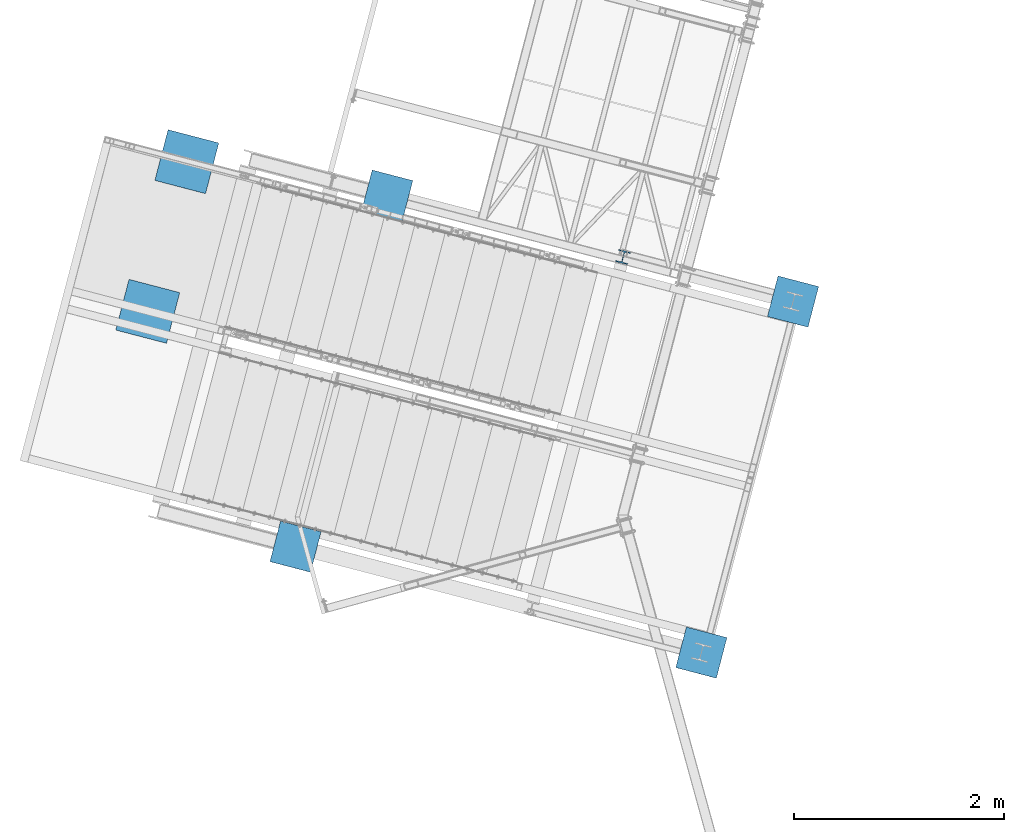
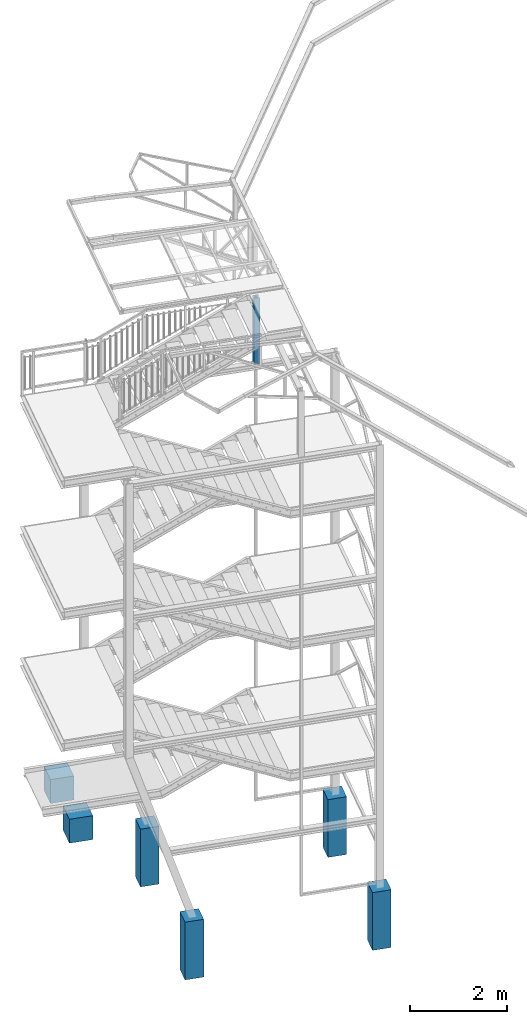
# One storey, part 1 of 169: 7 columns, 7 elements without a shape of their own.
"""IFC2X3 building model written with IfcOpenShell, lengths in millimetres."""

from ifc_helpers import new_model, si_unit, frame, origin_with_axes, origin_2d_with_axis, place, context, subcontext, project, spatial, rectangle, i_section, extrude, material, type_object, element, aggregate, save


model = new_model("IFC2X3")

# Units and contexts
model_context = context("Model", 3, precision=1e-05, world=origin_with_axes())
body_context = subcontext(model_context, "Body", "Model", "MODEL_VIEW")
ifc_project = project(units=[si_unit("LENGTHUNIT", "METRE", prefix="MILLI"), si_unit("AREAUNIT", "SQUARE_METRE"), si_unit("VOLUMEUNIT", "CUBIC_METRE"), si_unit("MASSUNIT", "GRAM", prefix="KILO"), si_unit("TIMEUNIT", "SECOND"), si_unit("PLANEANGLEUNIT", "RADIAN"), si_unit("SOLIDANGLEUNIT", "STERADIAN"), si_unit("THERMODYNAMICTEMPERATUREUNIT", "DEGREE_CELSIUS"), si_unit("LUMINOUSINTENSITYUNIT", "LUMEN")], contexts=[model_context])

# Site, building, storey
site_placement = place(None, origin_with_axes())
site = spatial("IfcSite", under=ifc_project, at=site_placement, Name="Undefined", CompositionType="ELEMENT")
building_placement = place(site_placement, origin_with_axes())
building = spatial("IfcBuilding", under=site, at=building_placement, Name="Undefined", CompositionType="ELEMENT")
storey_placement = place(building_placement, origin_with_axes())
storey = spatial("IfcBuildingStorey", under=building, at=storey_placement, Name="Undefined", CompositionType="ELEMENT", Elevation=0.0)

# Assembly, column
assembly_1_placement = place(storey_placement, origin_with_axes())
assembly_1 = element("IfcElementAssembly", 1, at=assembly_1_placement, inside=storey, Name="Steel Assembly", AssemblyPlace="NOTDEFINED", PredefinedType="RIGID_FRAME")
ifc_material_1 = material(Name="STEEL/S235")
column_type_1 = type_object("IfcColumnType", Name="HEB120", PredefinedType="NOTDEFINED")
column_1_placement = place(assembly_1_placement, frame((-24127.54930529, 8078.61783282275, 12139.9719506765), z_axis=(3.4552000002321e-05, 0.000132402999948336, 0.999999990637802), x_axis=(-0.252628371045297, -0.967563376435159, 0.000136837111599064)))
column_1 = element("IfcColumn", 2, at=column_1_placement, type_object=column_type_1, material=ifc_material_1, Name="BEAM", ObjectType="HEB120", context=body_context, shape_type="SweptSolid", body=[
    extrude(i_section(OverallWidth=120.0, OverallDepth=120.0, WebThickness=6.5, FlangeThickness=11.0, FilletRadius=12.0, at=origin_2d_with_axis()), frame((2.2741866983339e-13, -6.44010358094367e-18, 1659.99999999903), z_axis=(-2.54700353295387e-10, 0.0, -1.0), x_axis=(0.0, 1.0, 0.0)), (0.0, 0.0, 1.0), 1660.0),
])
aggregate(assembly_1, [column_1])

assembly_2_placement = place(storey_placement, origin_with_axes())
assembly_2 = element("IfcElementAssembly", 3, at=assembly_2_placement, inside=storey, Name="COLUMN", AssemblyPlace="NOTDEFINED", PredefinedType="REINFORCEMENT_UNIT")
ifc_material_2 = material(Name="CONCRETE/C25/30")
column_type_2 = type_object("IfcColumnType", Name="500*500", PredefinedType="NOTDEFINED")
column_2_placement = place(assembly_2_placement, frame((-28661.1710820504, 7560.77952293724, 2180.1971407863), z_axis=(3.4552000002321e-05, 0.000132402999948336, 0.999999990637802), x_axis=(-0.967563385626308, 0.252628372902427, -1.72000000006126e-07)))
column_2 = element("IfcColumn", 4, at=column_2_placement, type_object=column_type_2, material=ifc_material_2, Name="COLUMN", ObjectType="500*500", context=body_context, shape_type="SweptSolid", body=[
    extrude(rectangle(XDim=500.0, YDim=500.0, at=origin_2d_with_axis()), frame((2.06332448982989e-18, 2.27373675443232e-13, 599.999999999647), z_axis=(-2.54700353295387e-10, 0.0, -1.0), x_axis=(0.0, 1.0, 0.0)), (0.0, 0.0, 1.0), 600.0),
])
aggregate(assembly_2, [column_2])

assembly_3_placement = place(storey_placement, origin_with_axes())
assembly_3 = element("IfcElementAssembly", 5, at=assembly_3_placement, inside=storey, Name="COLUMN", AssemblyPlace="NOTDEFINED", PredefinedType="REINFORCEMENT_UNIT")
column_3_placement = place(assembly_3_placement, frame((-28288.5442355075, 8987.93550337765, 2179.99530621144), z_axis=(3.4552000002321e-05, 0.000132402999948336, 0.999999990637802), x_axis=(-0.967563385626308, 0.252628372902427, -1.72000000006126e-07)))
column_3 = element("IfcColumn", 6, at=column_3_placement, type_object=column_type_2, material=ifc_material_2, Name="COLUMN", ObjectType="500*500", context=body_context, shape_type="SweptSolid", body=[
    extrude(rectangle(XDim=500.0, YDim=500.0, at=origin_2d_with_axis()), frame((2.06332448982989e-18, 2.27373675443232e-13, 599.999999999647), z_axis=(-2.54700353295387e-10, 0.0, -1.0), x_axis=(0.0, 1.0, 0.0)), (0.0, 0.0, 1.0), 600.0),
])
aggregate(assembly_3, [column_3])

assembly_4_placement = place(storey_placement, origin_with_axes())
assembly_4 = element("IfcElementAssembly", 7, at=assembly_4_placement, inside=storey, Name="COLUMN", AssemblyPlace="NOTDEFINED", PredefinedType="REINFORCEMENT_UNIT")
column_type_3 = type_object("IfcColumnType", Name="400*400", PredefinedType="NOTDEFINED")
column_4_placement = place(assembly_4_placement, frame((-26377.5687080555, 8664.3145510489, -430.027931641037), z_axis=(3.4552000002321e-05, 0.000132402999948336, 0.999999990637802), x_axis=(-0.967563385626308, 0.252628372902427, -1.72000000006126e-07)))
column_4 = element("IfcColumn", 8, at=column_4_placement, type_object=column_type_3, material=ifc_material_2, Name="COLUMN", ObjectType="400*400", context=body_context, shape_type="SweptSolid", body=[
    extrude(rectangle(XDim=400.0, YDim=400.0, at=origin_2d_with_axis()), frame((4.99918623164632e-18, -2.27412977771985e-13, 1449.99999999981), z_axis=(-2.54700353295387e-10, 0.0, -1.0), x_axis=(0.0, 1.0, 0.0)), (0.0, 0.0, 1.0), 1450.0),
])
aggregate(assembly_4, [column_4])

assembly_5_placement = place(storey_placement, origin_with_axes())
assembly_5 = element("IfcElementAssembly", 9, at=assembly_5_placement, inside=storey, Name="COLUMN", AssemblyPlace="NOTDEFINED", PredefinedType="REINFORCEMENT_UNIT")
column_5_placement = place(assembly_5_placement, frame((-27251.6628701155, 5316.54526811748, -429.554475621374), z_axis=(3.4552000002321e-05, 0.000132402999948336, 0.999999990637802), x_axis=(-0.967563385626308, 0.252628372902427, -1.72000000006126e-07)))
column_5 = element("IfcColumn", 10, at=column_5_placement, type_object=column_type_3, material=ifc_material_2, Name="COLUMN", ObjectType="400*400", context=body_context, shape_type="SweptSolid", body=[
    extrude(rectangle(XDim=400.0, YDim=400.0, at=origin_2d_with_axis()), frame((4.99918623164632e-18, -2.27412977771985e-13, 1449.99999999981), z_axis=(-2.54700353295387e-10, 0.0, -1.0), x_axis=(0.0, 1.0, 0.0)), (0.0, 0.0, 1.0), 1450.0),
])
aggregate(assembly_5, [column_5])

assembly_6_placement = place(storey_placement, origin_with_axes())
assembly_6 = element("IfcElementAssembly", 11, at=assembly_6_placement, inside=storey, Name="COLUMN", AssemblyPlace="NOTDEFINED", PredefinedType="REINFORCEMENT_UNIT")
column_6_placement = place(assembly_6_placement, frame((-22507.3151655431, 7653.80105943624, -430.027931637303), z_axis=(3.4552000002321e-05, 0.000132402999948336, 0.999999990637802), x_axis=(-0.967563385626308, 0.252628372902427, -1.72000000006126e-07)))
column_6 = element("IfcColumn", 12, at=column_6_placement, type_object=column_type_3, material=ifc_material_2, Name="COLUMN", ObjectType="400*400", context=body_context, shape_type="SweptSolid", body=[
    extrude(rectangle(XDim=400.0, YDim=400.0, at=origin_2d_with_axis()), frame((4.99918623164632e-18, -2.27412977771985e-13, 1449.99999999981), z_axis=(-2.54700353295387e-10, 0.0, -1.0), x_axis=(0.0, 1.0, 0.0)), (0.0, 0.0, 1.0), 1450.0),
])
aggregate(assembly_6, [column_6])

assembly_7_placement = place(storey_placement, origin_with_axes())
assembly_7 = element("IfcElementAssembly", 13, at=assembly_7_placement, inside=storey, Name="COLUMN", AssemblyPlace="NOTDEFINED", PredefinedType="REINFORCEMENT_UNIT")
column_7_placement = place(assembly_7_placement, frame((-23381.4093276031, 4306.03177650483, -429.554475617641), z_axis=(3.4552000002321e-05, 0.000132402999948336, 0.999999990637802), x_axis=(-0.967563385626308, 0.252628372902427, -1.72000000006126e-07)))
column_7 = element("IfcColumn", 14, at=column_7_placement, type_object=column_type_3, material=ifc_material_2, Name="COLUMN", ObjectType="400*400", context=body_context, shape_type="SweptSolid", body=[
    extrude(rectangle(XDim=400.0, YDim=400.0, at=origin_2d_with_axis()), frame((4.99918623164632e-18, -2.27412977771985e-13, 1449.99999999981), z_axis=(-2.54700353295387e-10, 0.0, -1.0), x_axis=(0.0, 1.0, 0.0)), (0.0, 0.0, 1.0), 1450.0),
])
aggregate(assembly_7, [column_7])

save(model, "model.ifc")
